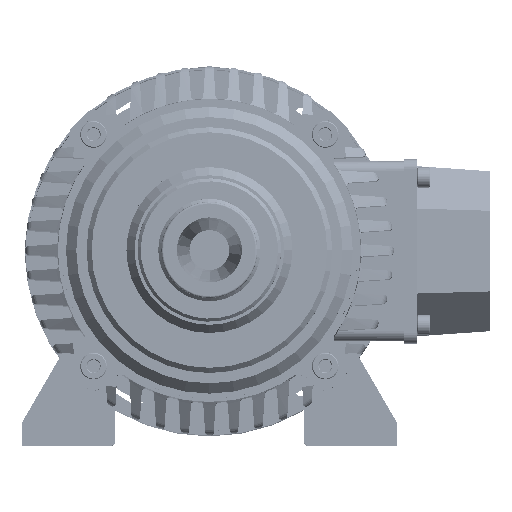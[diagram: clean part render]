
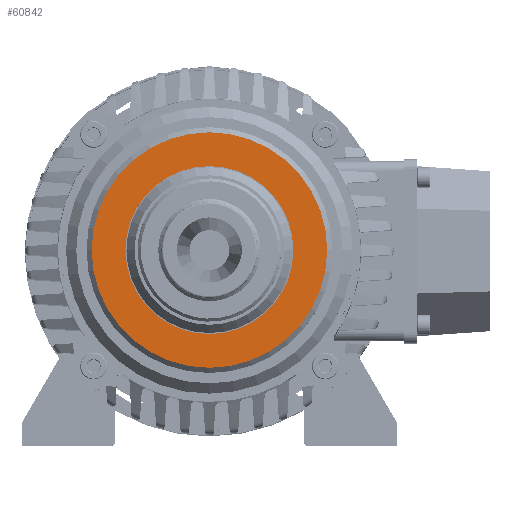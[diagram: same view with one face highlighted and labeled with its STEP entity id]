
A CAD part, top view. The second image highlights one B-rep face of the part: STEP entity #60842.
In plain terms, the highlighted planar face has unit normal (0, 0, 1).
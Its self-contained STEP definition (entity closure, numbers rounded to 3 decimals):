
#297 = EDGE_LOOP ( 'NONE', ( #51991, #50907 ) ) ;
#1054 = AXIS2_PLACEMENT_3D ( 'NONE', #35529, #25568, #15634 ) ;
#2060 = DIRECTION ( 'NONE',  ( 0., 0., -1. ) ) ;
#9708 = AXIS2_PLACEMENT_3D ( 'NONE', #58199, #48222, #38184 ) ;
#12046 = CARTESIAN_POINT ( 'NONE',  ( 0., 57.5, -0.791 ) ) ;
#13365 = EDGE_CURVE ( 'NONE', #41087, #35995, #24586, .T. ) ;
#14223 = CARTESIAN_POINT ( 'NONE',  ( -57.5, 0., -0.791 ) ) ;
#15634 = DIRECTION ( 'NONE',  ( 1., 0., 0. ) ) ;
#22050 = PLANE ( 'NONE',  #72686 ) ;
#24586 = CIRCLE ( 'NONE', #9708, 41. ) ;
#25568 = DIRECTION ( 'NONE',  ( 0., 0., 1. ) ) ;
#28137 = CARTESIAN_POINT ( 'NONE',  ( -41., 0., -0.791 ) ) ;
#28256 = EDGE_LOOP ( 'NONE', ( #45794, #74449 ) ) ;
#30998 = DIRECTION ( 'NONE',  ( 1., 0., 0. ) ) ;
#33233 = VERTEX_POINT ( 'NONE', #14223 ) ;
#33741 = DIRECTION ( 'NONE',  ( 1., 0., 0. ) ) ;
#35529 = CARTESIAN_POINT ( 'NONE',  ( 0., 0., -0.791 ) ) ;
#35995 = VERTEX_POINT ( 'NONE', #47195 ) ;
#38184 = DIRECTION ( 'NONE',  ( 1., 0., 0. ) ) ;
#40976 = DIRECTION ( 'NONE',  ( 0., 0., 1. ) ) ;
#41087 = VERTEX_POINT ( 'NONE', #28137 ) ;
#43754 = DIRECTION ( 'NONE',  ( 0., 0., 1. ) ) ;
#44518 = EDGE_CURVE ( 'NONE', #33233, #67642, #86736, .T. ) ;
#45794 = ORIENTED_EDGE ( 'NONE', *, *, #44518, .T. ) ;
#47195 = CARTESIAN_POINT ( 'NONE',  ( 41., 0., -0.791 ) ) ;
#48222 = DIRECTION ( 'NONE',  ( 0., 0., 1. ) ) ;
#50907 = ORIENTED_EDGE ( 'NONE', *, *, #13365, .F. ) ;
#51002 = CARTESIAN_POINT ( 'NONE',  ( 0., 0., -0.791 ) ) ;
#51809 = EDGE_CURVE ( 'NONE', #67642, #33233, #84446, .T. ) ;
#51991 = ORIENTED_EDGE ( 'NONE', *, *, #86844, .F. ) ;
#53762 = CARTESIAN_POINT ( 'NONE',  ( 0., 0., -0.791 ) ) ;
#58199 = CARTESIAN_POINT ( 'NONE',  ( 0., 0., -0.791 ) ) ;
#60842 = ADVANCED_FACE ( 'NONE', ( #62677, #67636 ), #22050, .F. ) ;
#61415 = AXIS2_PLACEMENT_3D ( 'NONE', #51002, #40976, #30998 ) ;
#62677 = FACE_BOUND ( 'NONE', #297, .T. ) ;
#67636 = FACE_OUTER_BOUND ( 'NONE', #28256, .T. ) ;
#67642 = VERTEX_POINT ( 'NONE', #70830 ) ;
#70830 = CARTESIAN_POINT ( 'NONE',  ( 57.5, 0., -0.791 ) ) ;
#72686 = AXIS2_PLACEMENT_3D ( 'NONE', #12046, #2060, #89413 ) ;
#74449 = ORIENTED_EDGE ( 'NONE', *, *, #51809, .T. ) ;
#80511 = CIRCLE ( 'NONE', #61415, 41. ) ;
#84446 = CIRCLE ( 'NONE', #1054, 57.5 ) ;
#84450 = AXIS2_PLACEMENT_3D ( 'NONE', #53762, #43754, #33741 ) ;
#86736 = CIRCLE ( 'NONE', #84450, 57.5 ) ;
#86844 = EDGE_CURVE ( 'NONE', #35995, #41087, #80511, .T. ) ;
#89413 = DIRECTION ( 'NONE',  ( -1., 0., 0. ) ) ;
